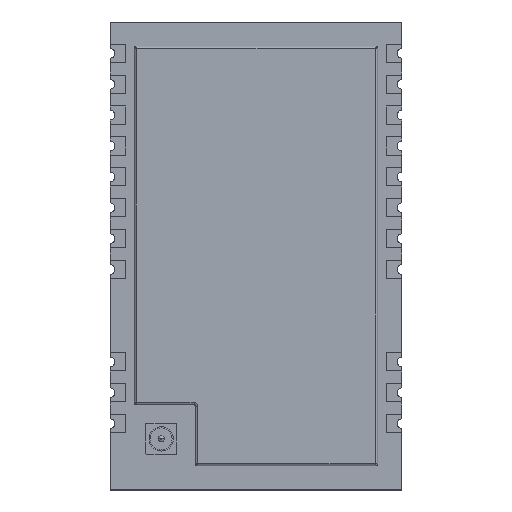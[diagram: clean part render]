
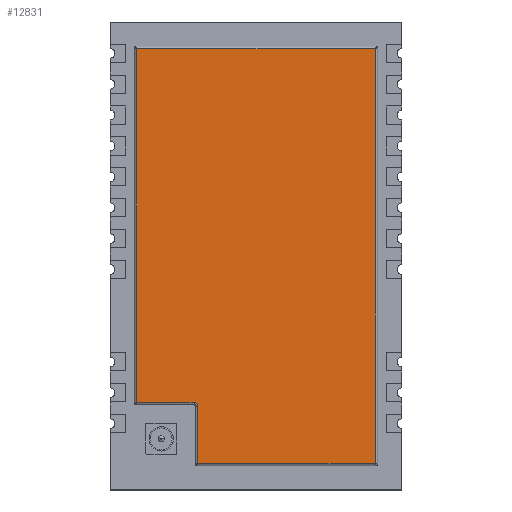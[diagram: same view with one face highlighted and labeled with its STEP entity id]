
A CAD part, top view. The second image highlights one B-rep face of the part: STEP entity #12831.
In plain terms, the highlighted planar face has unit normal (0, 0, 1).
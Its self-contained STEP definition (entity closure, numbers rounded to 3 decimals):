
#401 = DIRECTION ( 'NONE',  ( 0., -1., 0. ) ) ;
#792 = ORIENTED_EDGE ( 'NONE', *, *, #9883, .T. ) ;
#816 = CARTESIAN_POINT ( 'NONE',  ( 0., -13.49, 3.87 ) ) ;
#1843 = ORIENTED_EDGE ( 'NONE', *, *, #5132, .T. ) ;
#1944 = VERTEX_POINT ( 'NONE', #9610 ) ;
#2000 = LINE ( 'NONE', #816, #12160 ) ;
#2061 = CIRCLE ( 'NONE', #13575, 0.3 ) ;
#2434 = CARTESIAN_POINT ( 'NONE',  ( -9.8, 0., 3.87 ) ) ;
#2615 = CARTESIAN_POINT ( 'NONE',  ( -9.8, -13.49, 3.87 ) ) ;
#2622 = VERTEX_POINT ( 'NONE', #13316 ) ;
#2844 = CARTESIAN_POINT ( 'NONE',  ( -9.8, 15.61, 3.87 ) ) ;
#3091 = EDGE_CURVE ( 'NONE', #7239, #6463, #14640, .T. ) ;
#3378 = DIRECTION ( 'NONE',  ( 1., 0., 0. ) ) ;
#3556 = DIRECTION ( 'NONE',  ( 0., 1., 0. ) ) ;
#3718 = VERTEX_POINT ( 'NONE', #2615 ) ;
#3719 = CARTESIAN_POINT ( 'NONE',  ( -4.8, 0., 3.87 ) ) ;
#3797 = EDGE_CURVE ( 'NONE', #1944, #14056, #9730, .T. ) ;
#4394 = FACE_OUTER_BOUND ( 'NONE', #6170, .T. ) ;
#4549 = DIRECTION ( 'NONE',  ( -1., 0., 0. ) ) ;
#4629 = ORIENTED_EDGE ( 'NONE', *, *, #3091, .T. ) ;
#4926 = CARTESIAN_POINT ( 'NONE',  ( -4.8, -13.79, 3.87 ) ) ;
#5132 = EDGE_CURVE ( 'NONE', #6463, #1944, #7311, .T. ) ;
#5576 = DIRECTION ( 'NONE',  ( 1., 0., 0. ) ) ;
#5804 = VECTOR ( 'NONE', #4549, 1000. ) ;
#6137 = DIRECTION ( 'NONE',  ( 1., 0., 0. ) ) ;
#6170 = EDGE_LOOP ( 'NONE', ( #6759, #14226, #792, #10104, #7300, #4629, #1843 ) ) ;
#6193 = EDGE_CURVE ( 'NONE', #14056, #9395, #13829, .T. ) ;
#6463 = VERTEX_POINT ( 'NONE', #9060 ) ;
#6467 = CARTESIAN_POINT ( 'NONE',  ( -5.1, -13.79, 3.87 ) ) ;
#6759 = ORIENTED_EDGE ( 'NONE', *, *, #3797, .T. ) ;
#6990 = VECTOR ( 'NONE', #6137, 1000. ) ;
#7034 = DIRECTION ( 'NONE',  ( 0., -1., 0. ) ) ;
#7163 = CARTESIAN_POINT ( 'NONE',  ( 0., -18.49, 3.87 ) ) ;
#7239 = VERTEX_POINT ( 'NONE', #4926 ) ;
#7300 = ORIENTED_EDGE ( 'NONE', *, *, #12969, .T. ) ;
#7311 = LINE ( 'NONE', #7163, #6990 ) ;
#7502 = DIRECTION ( 'NONE',  ( 0., 0., -1. ) ) ;
#7958 = PLANE ( 'NONE',  #12550 ) ;
#8186 = LINE ( 'NONE', #2434, #9537 ) ;
#8532 = CARTESIAN_POINT ( 'NONE',  ( 9.8, 0., 3.87 ) ) ;
#9060 = CARTESIAN_POINT ( 'NONE',  ( -4.8, -18.49, 3.87 ) ) ;
#9395 = VERTEX_POINT ( 'NONE', #2844 ) ;
#9537 = VECTOR ( 'NONE', #7034, 1000. ) ;
#9610 = CARTESIAN_POINT ( 'NONE',  ( 9.8, -18.49, 3.87 ) ) ;
#9730 = LINE ( 'NONE', #8532, #11918 ) ;
#9883 = EDGE_CURVE ( 'NONE', #9395, #3718, #8186, .T. ) ;
#10104 = ORIENTED_EDGE ( 'NONE', *, *, #14200, .T. ) ;
#10738 = CARTESIAN_POINT ( 'NONE',  ( 0., 0., 3.87 ) ) ;
#11918 = VECTOR ( 'NONE', #3556, 1000. ) ;
#12160 = VECTOR ( 'NONE', #5576, 1000. ) ;
#12550 = AXIS2_PLACEMENT_3D ( 'NONE', #10738, #14392, #3378 ) ;
#12831 = ADVANCED_FACE ( 'NONE', ( #4394 ), #7958, .T. ) ;
#12969 = EDGE_CURVE ( 'NONE', #2622, #7239, #2061, .T. ) ;
#13316 = CARTESIAN_POINT ( 'NONE',  ( -5.1, -13.49, 3.87 ) ) ;
#13575 = AXIS2_PLACEMENT_3D ( 'NONE', #6467, #7502, #13647 ) ;
#13647 = DIRECTION ( 'NONE',  ( 1., 0., 0. ) ) ;
#13829 = LINE ( 'NONE', #15316, #5804 ) ;
#14056 = VERTEX_POINT ( 'NONE', #15181 ) ;
#14200 = EDGE_CURVE ( 'NONE', #3718, #2622, #2000, .T. ) ;
#14226 = ORIENTED_EDGE ( 'NONE', *, *, #6193, .T. ) ;
#14392 = DIRECTION ( 'NONE',  ( 0., 0., 1. ) ) ;
#14640 = LINE ( 'NONE', #3719, #15161 ) ;
#15161 = VECTOR ( 'NONE', #401, 1000. ) ;
#15181 = CARTESIAN_POINT ( 'NONE',  ( 9.8, 15.61, 3.87 ) ) ;
#15316 = CARTESIAN_POINT ( 'NONE',  ( 0., 15.61, 3.87 ) ) ;
